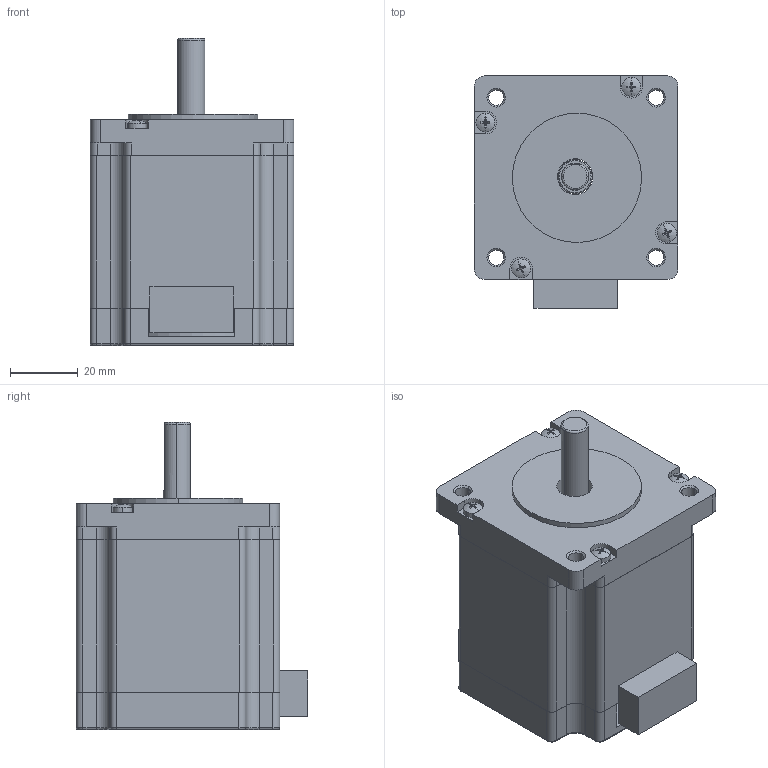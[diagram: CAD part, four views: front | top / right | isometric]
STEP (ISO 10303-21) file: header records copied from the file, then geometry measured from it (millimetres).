
FILE_DESCRIPTION (( 'STEP AP203' ), '1' );
FILE_NAME ('YK60HB65-03A.STEP', '2018-05-30T06:08:57', ( 'PC' ), ( '' ), 'SwSTEP 2.0', 'SolidWorks 2014', '' );
FILE_SCHEMA (( 'CONFIG_CONTROL_DESIGN' ));
Length unit declared in the file: millimetre
Products named in the file (7): 坋趼羞攫芛蹟隊; 綴裔; 粣; 隅赽; 堤盄傷赽; YK60HB65-03A; ヶ裔
Assembly tree (9 placements, depth 2):
  YK60HB65-03A
    ヶ裔
    綴裔
    隅赽
    粣
    坋趼羞攫芛蹟隊  x4
    堤盄傷赽
Bounding box: 60.11 x 68.35 x 90.5 mm (x, y, z)
Volume: 144512.7 mm3; surface area: 55164.5 mm2
Topology: 9 solids, 9 shells, 2239 faces, 4626 edges, 2421 vertices
Faces by surface type: cone 1912, plane 154, cylinder 136, torus 29, sphere 8
Entity records: 20980 total; most frequent: DIRECTION 3929, CARTESIAN_POINT 3325, ORIENTED_EDGE 3264, EDGE_CURVE 1632, AXIS2_PLACEMENT_3D 1542, VERTEX_POINT 912, LINE 845, VECTOR 845
